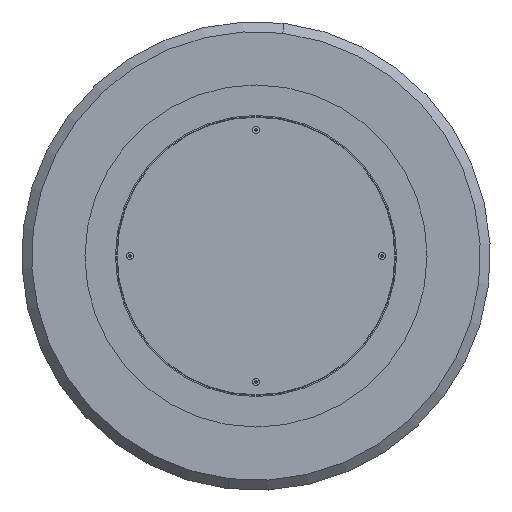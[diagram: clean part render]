
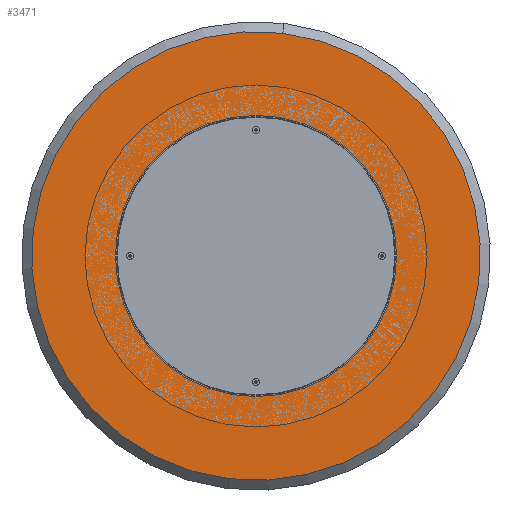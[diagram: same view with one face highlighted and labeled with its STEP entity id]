
A CAD part, front view. The second image highlights one B-rep face of the part: STEP entity #3471.
In plain terms, the highlighted planar face has unit normal (0, -1, 0).
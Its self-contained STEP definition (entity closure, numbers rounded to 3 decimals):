
#92 = CIRCLE ( 'NONE', #693, 3.4 ) ;
#95 = PLANE ( 'NONE',  #3050 ) ;
#170 = EDGE_LOOP ( 'NONE', ( #2628, #5716 ) ) ;
#192 = CIRCLE ( 'NONE', #1566, 3.4 ) ;
#313 = AXIS2_PLACEMENT_3D ( 'NONE', #4390, #4448, #4802 ) ;
#354 = VERTEX_POINT ( 'NONE', #3979 ) ;
#449 = VERTEX_POINT ( 'NONE', #4921 ) ;
#566 = DIRECTION ( 'NONE',  ( 0., 0., -1. ) ) ;
#575 = DIRECTION ( 'NONE',  ( 0., -1., 0. ) ) ;
#610 = CIRCLE ( 'NONE', #1977, 3.4 ) ;
#620 = VERTEX_POINT ( 'NONE', #4069 ) ;
#660 = ORIENTED_EDGE ( 'NONE', *, *, #1450, .F. ) ;
#693 = AXIS2_PLACEMENT_3D ( 'NONE', #5638, #5676, #1926 ) ;
#738 = EDGE_CURVE ( 'NONE', #2557, #354, #92, .T. ) ;
#795 = DIRECTION ( 'NONE',  ( 0., -1., 0. ) ) ;
#820 = CARTESIAN_POINT ( 'NONE',  ( 0., 0., 109.697 ) ) ;
#824 = CARTESIAN_POINT ( 'NONE',  ( 95., 0., -51.448 ) ) ;
#876 = CARTESIAN_POINT ( 'NONE',  ( -95., 0., -54.848 ) ) ;
#902 = CIRCLE ( 'NONE', #1669, 3.4 ) ;
#937 = EDGE_CURVE ( 'NONE', #620, #5843, #192, .T. ) ;
#968 = ORIENTED_EDGE ( 'NONE', *, *, #738, .F. ) ;
#1023 = FACE_BOUND ( 'NONE', #170, .T. ) ;
#1114 = EDGE_CURVE ( 'NONE', #2258, #4074, #1379, .T. ) ;
#1191 = AXIS2_PLACEMENT_3D ( 'NONE', #5874, #1692, #4962 ) ;
#1378 = EDGE_CURVE ( 'NONE', #4074, #2258, #3725, .T. ) ;
#1379 = CIRCLE ( 'NONE', #2154, 383. ) ;
#1414 = CARTESIAN_POINT ( 'NONE',  ( -95., 0., -58.248 ) ) ;
#1450 = EDGE_CURVE ( 'NONE', #354, #2557, #610, .T. ) ;
#1471 = VERTEX_POINT ( 'NONE', #5999 ) ;
#1553 = EDGE_CURVE ( 'NONE', #449, #5445, #902, .T. ) ;
#1566 = AXIS2_PLACEMENT_3D ( 'NONE', #1889, #4488, #3298 ) ;
#1584 = CIRCLE ( 'NONE', #313, 3.4 ) ;
#1669 = AXIS2_PLACEMENT_3D ( 'NONE', #820, #3228, #2310 ) ;
#1692 = DIRECTION ( 'NONE',  ( 0., -1., 0. ) ) ;
#1830 = CARTESIAN_POINT ( 'NONE',  ( 0., 0., 109.697 ) ) ;
#1889 = CARTESIAN_POINT ( 'NONE',  ( 95., 0., -54.848 ) ) ;
#1908 = FACE_OUTER_BOUND ( 'NONE', #3356, .T. ) ;
#1911 = AXIS2_PLACEMENT_3D ( 'NONE', #3996, #2128, #5420 ) ;
#1926 = DIRECTION ( 'NONE',  ( 0., 0., -1. ) ) ;
#1977 = AXIS2_PLACEMENT_3D ( 'NONE', #876, #2280, #2215 ) ;
#2000 = FACE_BOUND ( 'NONE', #3341, .T. ) ;
#2123 = CARTESIAN_POINT ( 'NONE',  ( 0., 0., 106.297 ) ) ;
#2128 = DIRECTION ( 'NONE',  ( 0., -1., 0. ) ) ;
#2154 = AXIS2_PLACEMENT_3D ( 'NONE', #5187, #575, #2439 ) ;
#2200 = CIRCLE ( 'NONE', #1911, 3.4 ) ;
#2215 = DIRECTION ( 'NONE',  ( 0., 0., -1. ) ) ;
#2258 = VERTEX_POINT ( 'NONE', #5772 ) ;
#2280 = DIRECTION ( 'NONE',  ( 0., -1., 0. ) ) ;
#2295 = DIRECTION ( 'NONE',  ( 0., 0., -1. ) ) ;
#2310 = DIRECTION ( 'NONE',  ( 0., 0., -1. ) ) ;
#2388 = ORIENTED_EDGE ( 'NONE', *, *, #1553, .F. ) ;
#2390 = VERTEX_POINT ( 'NONE', #4489 ) ;
#2399 = EDGE_CURVE ( 'NONE', #5445, #449, #4303, .T. ) ;
#2439 = DIRECTION ( 'NONE',  ( 0., 0., -1. ) ) ;
#2557 = VERTEX_POINT ( 'NONE', #1414 ) ;
#2628 = ORIENTED_EDGE ( 'NONE', *, *, #937, .F. ) ;
#2777 = ORIENTED_EDGE ( 'NONE', *, *, #2399, .F. ) ;
#2954 = FACE_BOUND ( 'NONE', #3366, .T. ) ;
#3050 = AXIS2_PLACEMENT_3D ( 'NONE', #4348, #4684, #566 ) ;
#3150 = ORIENTED_EDGE ( 'NONE', *, *, #4321, .F. ) ;
#3228 = DIRECTION ( 'NONE',  ( 0., -1., 0. ) ) ;
#3298 = DIRECTION ( 'NONE',  ( 0., 0., -1. ) ) ;
#3341 = EDGE_LOOP ( 'NONE', ( #968, #660 ) ) ;
#3356 = EDGE_LOOP ( 'NONE', ( #5024, #5209 ) ) ;
#3366 = EDGE_LOOP ( 'NONE', ( #3150, #5033 ) ) ;
#3432 = AXIS2_PLACEMENT_3D ( 'NONE', #1830, #4162, #2295 ) ;
#3471 = ADVANCED_FACE ( 'NONE', ( #2000, #4261, #1023, #1908, #2954 ), #95, .T. ) ;
#3725 = CIRCLE ( 'NONE', #1191, 383. ) ;
#3979 = CARTESIAN_POINT ( 'NONE',  ( -95., 0., -51.448 ) ) ;
#3996 = CARTESIAN_POINT ( 'NONE',  ( 95., 0., -54.848 ) ) ;
#4069 = CARTESIAN_POINT ( 'NONE',  ( 95., 0., -58.248 ) ) ;
#4074 = VERTEX_POINT ( 'NONE', #4228 ) ;
#4159 = DIRECTION ( 'NONE',  ( 0., 0., -1. ) ) ;
#4162 = DIRECTION ( 'NONE',  ( 0., -1., 0. ) ) ;
#4228 = CARTESIAN_POINT ( 'NONE',  ( 0., 0., -383. ) ) ;
#4261 = FACE_BOUND ( 'NONE', #5349, .T. ) ;
#4303 = CIRCLE ( 'NONE', #3432, 3.4 ) ;
#4321 = EDGE_CURVE ( 'NONE', #1471, #2390, #5489, .T. ) ;
#4348 = CARTESIAN_POINT ( 'NONE',  ( 0., 0., 0. ) ) ;
#4390 = CARTESIAN_POINT ( 'NONE',  ( 0., 0., 0. ) ) ;
#4448 = DIRECTION ( 'NONE',  ( 0., -1., 0. ) ) ;
#4488 = DIRECTION ( 'NONE',  ( 0., -1., 0. ) ) ;
#4489 = CARTESIAN_POINT ( 'NONE',  ( 0., 0., 3.4 ) ) ;
#4582 = EDGE_CURVE ( 'NONE', #2390, #1471, #1584, .T. ) ;
#4684 = DIRECTION ( 'NONE',  ( 0., -1., 0. ) ) ;
#4802 = DIRECTION ( 'NONE',  ( 0., 0., -1. ) ) ;
#4921 = CARTESIAN_POINT ( 'NONE',  ( 0., 0., 113.097 ) ) ;
#4962 = DIRECTION ( 'NONE',  ( 0., 0., -1. ) ) ;
#5024 = ORIENTED_EDGE ( 'NONE', *, *, #1114, .T. ) ;
#5033 = ORIENTED_EDGE ( 'NONE', *, *, #4582, .F. ) ;
#5187 = CARTESIAN_POINT ( 'NONE',  ( 0., 0., 0. ) ) ;
#5202 = AXIS2_PLACEMENT_3D ( 'NONE', #5979, #795, #4159 ) ;
#5209 = ORIENTED_EDGE ( 'NONE', *, *, #1378, .T. ) ;
#5349 = EDGE_LOOP ( 'NONE', ( #2777, #2388 ) ) ;
#5420 = DIRECTION ( 'NONE',  ( 0., 0., -1. ) ) ;
#5445 = VERTEX_POINT ( 'NONE', #2123 ) ;
#5489 = CIRCLE ( 'NONE', #5202, 3.4 ) ;
#5638 = CARTESIAN_POINT ( 'NONE',  ( -95., 0., -54.848 ) ) ;
#5676 = DIRECTION ( 'NONE',  ( 0., -1., 0. ) ) ;
#5716 = ORIENTED_EDGE ( 'NONE', *, *, #5808, .F. ) ;
#5772 = CARTESIAN_POINT ( 'NONE',  ( 0., 0., 383. ) ) ;
#5808 = EDGE_CURVE ( 'NONE', #5843, #620, #2200, .T. ) ;
#5843 = VERTEX_POINT ( 'NONE', #824 ) ;
#5874 = CARTESIAN_POINT ( 'NONE',  ( 0., 0., 0. ) ) ;
#5979 = CARTESIAN_POINT ( 'NONE',  ( 0., 0., 0. ) ) ;
#5999 = CARTESIAN_POINT ( 'NONE',  ( 0., 0., -3.4 ) ) ;
